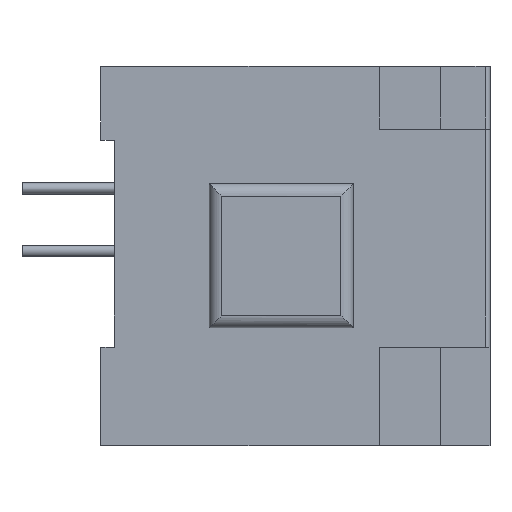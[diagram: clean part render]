
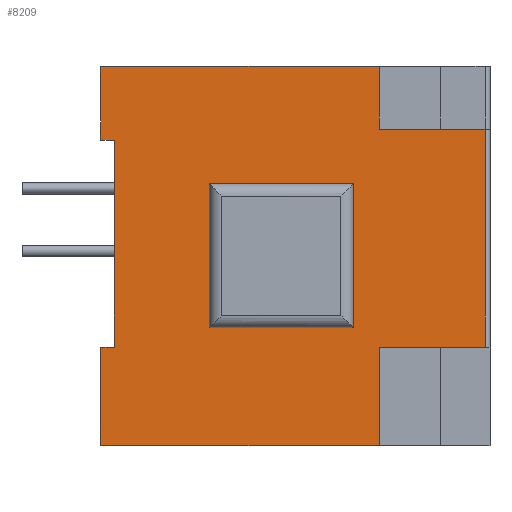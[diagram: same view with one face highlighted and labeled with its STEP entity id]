
A CAD part, front view. The second image highlights one B-rep face of the part: STEP entity #8209.
In plain terms, the highlighted planar face has unit normal (0, -1, 0).
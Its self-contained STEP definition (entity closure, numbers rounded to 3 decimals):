
#770=DIRECTION('',(1.,0.,0.));
#771=VECTOR('',#770,11.3);
#772=CARTESIAN_POINT('',(-7.9,-20.5,-7.7));
#773=LINE('',#772,#771);
#922=DIRECTION('',(0.,0.,1.));
#923=VECTOR('',#922,8.4);
#924=CARTESIAN_POINT('',(-7.35,-20.5,-3.7));
#925=LINE('',#924,#923);
#926=DIRECTION('',(-1.,0.,0.));
#927=VECTOR('',#926,0.55);
#928=CARTESIAN_POINT('',(-7.35,-20.5,4.7));
#929=LINE('',#928,#927);
#930=DIRECTION('',(1.,0.,0.));
#931=VECTOR('',#930,11.3);
#932=CARTESIAN_POINT('',(-7.9,-20.5,7.7));
#933=LINE('',#932,#931);
#934=DIRECTION('',(0.,0.,1.));
#935=VECTOR('',#934,4.);
#936=CARTESIAN_POINT('',(-7.9,-20.5,-7.7));
#937=LINE('',#936,#935);
#938=DIRECTION('',(1.,0.,0.));
#939=VECTOR('',#938,0.55);
#940=CARTESIAN_POINT('',(-7.9,-20.5,-3.7));
#941=LINE('',#940,#939);
#942=DIRECTION('',(0.,0.,-1.));
#943=VECTOR('',#942,3.);
#944=CARTESIAN_POINT('',(-7.9,-20.5,7.7));
#945=LINE('',#944,#943);
#4550=DIRECTION('',(0.,0.,1.));
#4551=VECTOR('',#4550,2.55);
#4552=CARTESIAN_POINT('',(3.4,-20.5,5.15));
#4553=LINE('',#4552,#4551);
#4600=DIRECTION('',(-1.,0.,0.));
#4601=VECTOR('',#4600,4.3);
#4602=CARTESIAN_POINT('',(7.7,-20.5,5.15));
#4603=LINE('',#4602,#4601);
#4616=DIRECTION('',(0.,0.,1.));
#4617=VECTOR('',#4616,8.85);
#4618=CARTESIAN_POINT('',(7.7,-20.5,-3.7));
#4619=LINE('',#4618,#4617);
#4624=DIRECTION('',(-1.,0.,0.));
#4625=VECTOR('',#4624,4.3);
#4626=CARTESIAN_POINT('',(7.7,-20.5,-3.7));
#4627=LINE('',#4626,#4625);
#4685=DIRECTION('',(0.,0.,1.));
#4686=VECTOR('',#4685,4.);
#4687=CARTESIAN_POINT('',(3.4,-20.5,-7.7));
#4688=LINE('',#4687,#4686);
#4689=DIRECTION('',(0.,0.,1.));
#4690=VECTOR('',#4689,5.85);
#4691=CARTESIAN_POINT('',(-3.5,-20.5,-2.92));
#4692=LINE('',#4691,#4690);
#4693=DIRECTION('',(-1.,0.,0.));
#4694=VECTOR('',#4693,5.85);
#4695=CARTESIAN_POINT('',(2.35,-20.5,-2.92));
#4696=LINE('',#4695,#4694);
#4777=DIRECTION('',(-1.,0.,0.));
#4778=VECTOR('',#4777,5.85);
#4779=CARTESIAN_POINT('',(2.35,-20.5,2.93));
#4780=LINE('',#4779,#4778);
#4785=DIRECTION('',(0.,0.,1.));
#4786=VECTOR('',#4785,5.85);
#4787=CARTESIAN_POINT('',(2.35,-20.5,-2.92));
#4788=LINE('',#4787,#4786);
#5899=CARTESIAN_POINT('',(-7.35,-20.5,4.7));
#5900=VERTEX_POINT('',#5899);
#5901=CARTESIAN_POINT('',(-7.9,-20.5,4.7));
#5902=VERTEX_POINT('',#5901);
#6028=CARTESIAN_POINT('',(-7.35,-20.5,-3.7));
#6030=VERTEX_POINT('',#6028);
#6168=CARTESIAN_POINT('',(-7.9,-20.5,7.7));
#6169=CARTESIAN_POINT('',(3.4,-20.5,7.7));
#6170=VERTEX_POINT('',#6168);
#6171=VERTEX_POINT('',#6169);
#6384=CARTESIAN_POINT('',(-7.9,-20.5,-7.7));
#6385=VERTEX_POINT('',#6384);
#6386=CARTESIAN_POINT('',(-7.9,-20.5,-3.7));
#6387=VERTEX_POINT('',#6386);
#6388=CARTESIAN_POINT('',(3.4,-20.5,-7.7));
#6389=VERTEX_POINT('',#6388);
#6390=CARTESIAN_POINT('',(3.4,-20.5,-3.7));
#6391=VERTEX_POINT('',#6390);
#6392=CARTESIAN_POINT('',(7.7,-20.5,-3.7));
#6393=VERTEX_POINT('',#6392);
#6394=CARTESIAN_POINT('',(7.7,-20.5,5.15));
#6395=VERTEX_POINT('',#6394);
#6396=CARTESIAN_POINT('',(3.4,-20.5,5.15));
#6397=VERTEX_POINT('',#6396);
#6398=CARTESIAN_POINT('',(-3.5,-20.5,-2.92));
#6399=CARTESIAN_POINT('',(-3.5,-20.5,2.93));
#6400=VERTEX_POINT('',#6398);
#6401=VERTEX_POINT('',#6399);
#6402=CARTESIAN_POINT('',(2.35,-20.5,2.93));
#6403=VERTEX_POINT('',#6402);
#6404=CARTESIAN_POINT('',(2.35,-20.5,-2.92));
#6405=VERTEX_POINT('',#6404);
#8174=CARTESIAN_POINT('',(-0.1,-20.5,0.));
#8175=DIRECTION('',(0.,1.,0.));
#8176=DIRECTION('',(0.,0.,-1.));
#8177=AXIS2_PLACEMENT_3D('',#8174,#8175,#8176);
#8178=PLANE('',#8177);
#8179=ORIENTED_EDGE('',*,*,#8071,.T.);
#8180=ORIENTED_EDGE('',*,*,#7308,.T.);
#8182=ORIENTED_EDGE('',*,*,#8181,.F.);
#8183=ORIENTED_EDGE('',*,*,#6697,.T.);
#8185=ORIENTED_EDGE('',*,*,#8184,.F.);
#8187=ORIENTED_EDGE('',*,*,#8186,.F.);
#8189=ORIENTED_EDGE('',*,*,#8188,.F.);
#8191=ORIENTED_EDGE('',*,*,#8190,.T.);
#8193=ORIENTED_EDGE('',*,*,#8192,.F.);
#8194=ORIENTED_EDGE('',*,*,#7925,.F.);
#8195=ORIENTED_EDGE('',*,*,#8155,.T.);
#8196=ORIENTED_EDGE('',*,*,#8168,.T.);
#8197=EDGE_LOOP('',(#8179,#8180,#8182,#8183,#8185,#8187,#8189,#8191,#8193,#8194,
#8195,#8196));
#8198=FACE_OUTER_BOUND('',#8197,.F.);
#8200=ORIENTED_EDGE('',*,*,#8199,.F.);
#8202=ORIENTED_EDGE('',*,*,#8201,.F.);
#8204=ORIENTED_EDGE('',*,*,#8203,.T.);
#8206=ORIENTED_EDGE('',*,*,#8205,.T.);
#8207=EDGE_LOOP('',(#8200,#8202,#8204,#8206));
#8208=FACE_BOUND('',#8207,.F.);
#8209=ADVANCED_FACE('',(#8198,#8208),#8178,.F.);
#6697=EDGE_CURVE('',#6170,#6171,#933,.T.);
#7308=EDGE_CURVE('',#5900,#5902,#929,.T.);
#7925=EDGE_CURVE('',#6385,#6389,#773,.T.);
#8071=EDGE_CURVE('',#6030,#5900,#925,.T.);
#8155=EDGE_CURVE('',#6385,#6387,#937,.T.);
#8168=EDGE_CURVE('',#6387,#6030,#941,.T.);
#8181=EDGE_CURVE('',#6170,#5902,#945,.T.);
#8184=EDGE_CURVE('',#6397,#6171,#4553,.T.);
#8186=EDGE_CURVE('',#6395,#6397,#4603,.T.);
#8188=EDGE_CURVE('',#6393,#6395,#4619,.T.);
#8190=EDGE_CURVE('',#6393,#6391,#4627,.T.);
#8192=EDGE_CURVE('',#6389,#6391,#4688,.T.);
#8199=EDGE_CURVE('',#6400,#6401,#4692,.T.);
#8201=EDGE_CURVE('',#6405,#6400,#4696,.T.);
#8203=EDGE_CURVE('',#6405,#6403,#4788,.T.);
#8205=EDGE_CURVE('',#6403,#6401,#4780,.T.);
